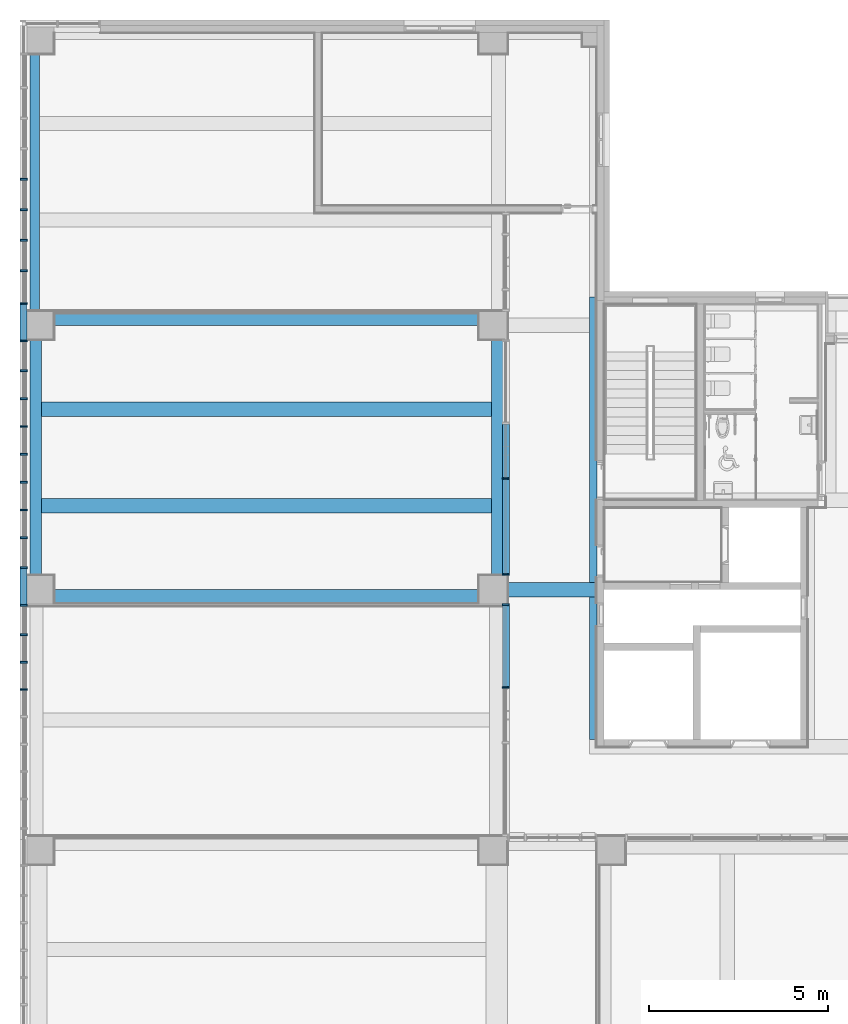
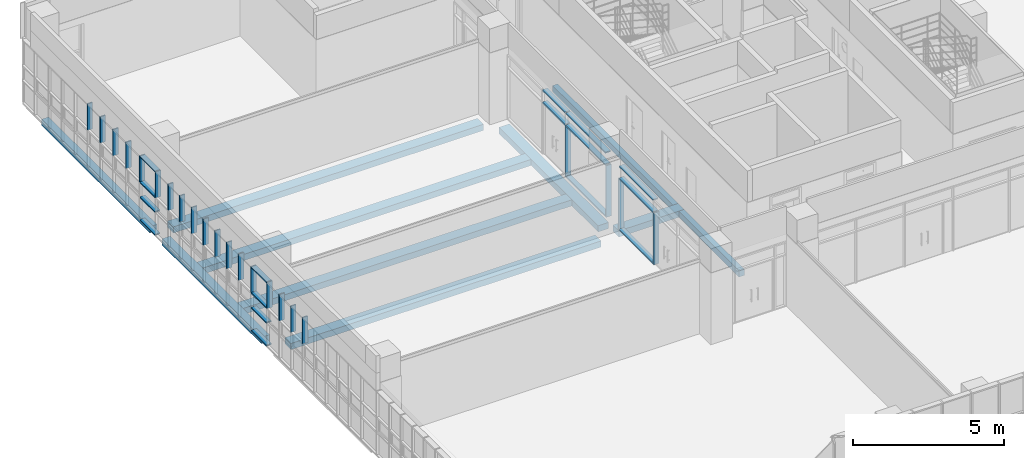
# One storey, part 6 of 76: 38 members, 10 beams, 3 elements without a shape of their own.
"""IFC2X3 building model written with IfcOpenShell, lengths in millimetres."""

from ifc_helpers import new_model, entity, si_unit, converted_unit, derived_unit, direction, frame, frame_2d, origin, origin_2d_with_axis, place, context, subcontext, project, spatial, rectangle, extrude, source, transform, mapped, material, material_list, type_object, type_shapes, element, aggregate, save


model = new_model("IFC2X3")

# Units and contexts
model_context = context("Model", 3, precision=0.01, world=origin(), true_north=direction((6.123031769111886e-17, 1.0)))
body_context = subcontext(model_context, "Body", "Model", "MODEL_VIEW")
ifc_project = project(units=[si_unit("LENGTHUNIT", "METRE", prefix="MILLI"), si_unit("AREAUNIT", "SQUARE_METRE"), si_unit("VOLUMEUNIT", "CUBIC_METRE"), converted_unit("PLANEANGLEUNIT", "DEGREE", entity("IfcRatioMeasure", 0.017453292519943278), si_unit("PLANEANGLEUNIT", "RADIAN"), dimensions=[0, 0, 0, 0, 0, 0, 0]), si_unit("MASSUNIT", "GRAM", prefix="KILO"), derived_unit("MASSDENSITYUNIT", [(si_unit("MASSUNIT", "GRAM", prefix="KILO"), 1), (si_unit("LENGTHUNIT", "METRE"), -3)]), derived_unit("MOMENTOFINERTIAUNIT", [(si_unit("LENGTHUNIT", "METRE"), 4)]), si_unit("TIMEUNIT", "SECOND"), si_unit("FREQUENCYUNIT", "HERTZ"), si_unit("THERMODYNAMICTEMPERATUREUNIT", "DEGREE_CELSIUS"), derived_unit("THERMALTRANSMITTANCEUNIT", [(si_unit("MASSUNIT", "GRAM", prefix="KILO"), 1), (si_unit("THERMODYNAMICTEMPERATUREUNIT", "KELVIN"), -1), (si_unit("TIMEUNIT", "SECOND"), -3)]), derived_unit("VOLUMETRICFLOWRATEUNIT", [(si_unit("LENGTHUNIT", "METRE"), 3), (si_unit("TIMEUNIT", "SECOND"), -1)]), derived_unit("MASSFLOWRATEUNIT", [(si_unit("MASSUNIT", "GRAM", prefix="KILO"), 1), (si_unit("TIMEUNIT", "SECOND"), -1)]), derived_unit("ROTATIONALFREQUENCYUNIT", [(si_unit("TIMEUNIT", "SECOND"), -1)]), si_unit("ELECTRICCURRENTUNIT", "AMPERE"), si_unit("ELECTRICVOLTAGEUNIT", "VOLT"), si_unit("POWERUNIT", "WATT"), si_unit("FORCEUNIT", "NEWTON", prefix="KILO"), si_unit("ILLUMINANCEUNIT", "LUX"), si_unit("LUMINOUSFLUXUNIT", "LUMEN"), si_unit("LUMINOUSINTENSITYUNIT", "CANDELA"), derived_unit("USERDEFINED", [(si_unit("MASSUNIT", "GRAM", prefix="KILO"), -1), (si_unit("LENGTHUNIT", "METRE"), -2), (si_unit("TIMEUNIT", "SECOND"), 3), (si_unit("LUMINOUSFLUXUNIT", "LUMEN"), 1)]), derived_unit("SOUNDPOWERUNIT", [(si_unit("MASSUNIT", "GRAM", prefix="KILO"), 1), (si_unit("LENGTHUNIT", "METRE"), 2), (si_unit("TIMEUNIT", "SECOND"), -3)]), derived_unit("SOUNDPRESSUREUNIT", [(si_unit("MASSUNIT", "GRAM", prefix="KILO"), 1), (si_unit("LENGTHUNIT", "METRE"), -1), (si_unit("TIMEUNIT", "SECOND"), -2)]), derived_unit("LINEARVELOCITYUNIT", [(si_unit("LENGTHUNIT", "METRE"), 1), (si_unit("TIMEUNIT", "SECOND"), -1)]), si_unit("PRESSUREUNIT", "PASCAL"), derived_unit("USERDEFINED", [(si_unit("LENGTHUNIT", "METRE"), -2), (si_unit("MASSUNIT", "GRAM", prefix="KILO"), 1), (si_unit("TIMEUNIT", "SECOND"), -2)]), derived_unit("LINEARFORCEUNIT", [(si_unit("MASSUNIT", "GRAM", prefix="KILO"), 1), (si_unit("LENGTHUNIT", "METRE"), 1), (si_unit("TIMEUNIT", "SECOND"), -2), (si_unit("LENGTHUNIT", "METRE"), -1)]), derived_unit("PLANARFORCEUNIT", [(si_unit("MASSUNIT", "GRAM", prefix="KILO"), 1), (si_unit("LENGTHUNIT", "METRE"), 1), (si_unit("TIMEUNIT", "SECOND"), -2), (si_unit("LENGTHUNIT", "METRE"), -2)])], contexts=[model_context])

# Site, building, storey
site_placement = place(None, frame((-14167.972527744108, -657.2125860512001, 0.0)))
site = spatial("IfcSite", under=ifc_project, at=site_placement, Name="Default", CompositionType="ELEMENT")
building_placement = place(site_placement, origin())
building = spatial("IfcBuilding", under=site, at=building_placement, Name="Sample Building", CompositionType="ELEMENT")
storey_placement = place(building_placement, frame((0.0, 0.0, 9300.0)))
storey = spatial("IfcBuildingStorey", under=building, at=storey_placement, Name="지상 3층", CompositionType="ELEMENT", Elevation=9300.000000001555)

# Curtain wall, member
curtain_wall_type = type_object("IfcCurtainWallType", Name="커튼월:CW112-스테인리스 스틸 커튼월", PredefinedType="NOTDEFINED")
curtain_wall_1_placement = place(storey_placement, frame((0.0, 0.0, -9300.0)))
curtain_wall_1 = element("IfcCurtainWall", 1, at=curtain_wall_1_placement, inside=storey, type_object=curtain_wall_type, Name="커튼월:CW112-스테인리스 스틸 커튼월", ObjectType="커튼월:CW112-스테인리스 스틸 커튼월")
ifc_material_1 = material(Name="<Unnamed>")
member_type_1 = type_object("IfcMemberType", Name="직사각형 멀리언:CW200-직사각형 멀리언 50x200mm", PredefinedType="MULLION", material=ifc_material_1)
shared_shape_1 = source(origin(), body_context, "Body", "SweptSolid", [
    extrude(rectangle(XDim=200.0, YDim=50.0, at=origin_2d_with_axis()), frame((0.0, 0.0, -2100.0), z_axis=(0.0, 0.0, 1.0), x_axis=(0.0, -1.0, 0.0)), (0.0, 0.0, 1.0), 2100.0),
])
type_shapes(member_type_1, [shared_shape_1])
member_1_placement = place(curtain_wall_1_placement, frame((27522.955105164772, 23067.212307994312, 9380.0), z_axis=(0.0, 0.0, -1.0), x_axis=(0.0, -1.0, 0.0)))
member_1 = element("IfcMember", 2, at=member_1_placement, type_object=member_type_1, material=ifc_material_1, Name="직사각형 멀리언:CW200-직사각형 멀리언 50x200mm", ObjectType="직사각형 멀리언:CW200-직사각형 멀리언 50x200mm", context=body_context, shape_type="MappedRepresentation", body=[
    mapped(shared_shape_1, transform((0.0, 0.0, 0.0), scale=1.0)),
])

# Curtain wall, members
curtain_wall_2_placement = place(storey_placement, frame((0.0, 0.0, -9300.0)))
curtain_wall_2 = element("IfcCurtainWall", 3, at=curtain_wall_2_placement, inside=storey, type_object=curtain_wall_type, Name="커튼월:CW112-스테인리스 스틸 커튼월", ObjectType="커튼월:CW112-스테인리스 스틸 커튼월")
member_2_placement = place(curtain_wall_2_placement, frame((27522.95510516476, 17217.17762439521, 9380.0), z_axis=(0.0, 0.0, -1.0), x_axis=(0.0, -1.0, 0.0)))
member_2 = element("IfcMember", 4, at=member_2_placement, type_object=member_type_1, material=ifc_material_1, Name="직사각형 멀리언:CW200-직사각형 멀리언 50x200mm", ObjectType="직사각형 멀리언:CW200-직사각형 멀리언 50x200mm", context=body_context, shape_type="MappedRepresentation", body=[
    mapped(shared_shape_1, transform((0.0, 0.0, 0.0), scale=1.0)),
])
member_type_2 = type_object("IfcMemberType", Name="직사각형 멀리언:CW200-직사각형 멀리언 50x200mm", PredefinedType="MULLION", material=ifc_material_1)
shared_shape_2 = source(origin(), body_context, "Body", "SweptSolid", [
    extrude(rectangle(XDim=200.0, YDim=50.0, at=origin_2d_with_axis()), frame((-25.0, 0.0, -2100.0), z_axis=(0.0, 0.0, 1.0), x_axis=(0.0, -1.0, 0.0)), (0.0, 0.0, 1.0), 2099.9999999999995),
])
type_shapes(member_type_2, [shared_shape_2])
member_3_placement = place(curtain_wall_2_placement, frame((27522.955105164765, 19557.212617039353, 11480.0), z_axis=(0.0, 0.0, 1.0), x_axis=(0.0, 1.0, 0.0)))
member_3 = element("IfcMember", 5, at=member_3_placement, type_object=member_type_2, material=ifc_material_1, Name="직사각형 멀리언:CW200-직사각형 멀리언 50x200mm", ObjectType="직사각형 멀리언:CW200-직사각형 멀리언 50x200mm", context=body_context, shape_type="MappedRepresentation", body=[
    mapped(shared_shape_2, transform((0.0, 0.0, 0.0), scale=1.0)),
])

# Member
member_type_3 = type_object("IfcMemberType", Name="직사각형 멀리언:CW200-직사각형 멀리언 50x200mm", PredefinedType="MULLION", material=ifc_material_1)
shared_shape_3 = source(origin(), body_context, "Body", "SweptSolid", [
    extrude(rectangle(XDim=200.0, YDim=50.0, at=origin_2d_with_axis()), frame((-25.0, 0.0, -2100.0), z_axis=(0.0, 0.0, 1.0), x_axis=(0.0, -1.0, 0.0)), (0.0, 0.0, 1.0), 2100.0),
])
type_shapes(member_type_3, [shared_shape_3])
member_4_placement = place(curtain_wall_1_placement, frame((27522.95510516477, 20357.212307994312, 9380.0), z_axis=(0.0, 0.0, -1.0), x_axis=(0.0, -1.0, 0.0)))
member_4 = element("IfcMember", 6, at=member_4_placement, type_object=member_type_3, material=ifc_material_1, Name="직사각형 멀리언:CW200-직사각형 멀리언 50x200mm", ObjectType="직사각형 멀리언:CW200-직사각형 멀리언 50x200mm", context=body_context, shape_type="MappedRepresentation", body=[
    mapped(shared_shape_3, transform((0.0, 0.0, 0.0), scale=1.0)),
])

member_type_4 = type_object("IfcMemberType", Name="직사각형 멀리언:CW200-직사각형 멀리언 50x200mm", PredefinedType="MULLION", material=ifc_material_1)
shared_shape_4 = source(origin(), body_context, "Body", "SweptSolid", [
    extrude(rectangle(XDim=200.0, YDim=50.0, at=origin_2d_with_axis()), frame((-25.0, 0.0, -1500.0), z_axis=(0.0, 0.0, 1.0), x_axis=(0.0, -1.0, 0.0)), (0.0, 0.0, 1.0), 1500.0000000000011),
])
type_shapes(member_type_4, [shared_shape_4])
member_5_placement = place(curtain_wall_1_placement, frame((27522.955105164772, 23092.21230799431, 12000.0), z_axis=(0.0, -1.0, 0.0), x_axis=(0.0, 0.0, 1.0)))
member_5 = element("IfcMember", 7, at=member_5_placement, type_object=member_type_4, material=ifc_material_1, Name="직사각형 멀리언:CW200-직사각형 멀리언 50x200mm", ObjectType="직사각형 멀리언:CW200-직사각형 멀리언 50x200mm", context=body_context, shape_type="MappedRepresentation", body=[
    mapped(shared_shape_4, transform((0.0, 0.0, 0.0), scale=1.0)),
])

member_type_5 = type_object("IfcMemberType", Name="직사각형 멀리언:CW200-직사각형 멀리언 50x200mm", PredefinedType="MULLION", material=ifc_material_1)
shared_shape_5 = source(origin(), body_context, "Body", "SweptSolid", [
    extrude(rectangle(XDim=200.0, YDim=50.0, at=origin_2d_with_axis()), frame((0.0, 0.0, -1500.0), z_axis=(0.0, 0.0, 1.0), x_axis=(0.0, -1.0, 0.0)), (0.0, 0.0, 1.0), 1500.0000000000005),
])
type_shapes(member_type_5, [shared_shape_5])
member_6_placement = place(curtain_wall_1_placement, frame((27522.955105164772, 23092.21230799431, 11480.0), z_axis=(0.0, -1.0, 0.0), x_axis=(0.0, 0.0, 1.0)))
member_6 = element("IfcMember", 8, at=member_6_placement, type_object=member_type_5, material=ifc_material_1, Name="직사각형 멀리언:CW200-직사각형 멀리언 50x200mm", ObjectType="직사각형 멀리언:CW200-직사각형 멀리언 50x200mm", context=body_context, shape_type="MappedRepresentation", body=[
    mapped(shared_shape_5, transform((0.0, 0.0, 0.0), scale=1.0)),
])

member_type_6 = type_object("IfcMemberType", Name="직사각형 멀리언:CW200-직사각형 멀리언 50x200mm", PredefinedType="MULLION", material=ifc_material_1)
shared_shape_6 = source(origin(), body_context, "Body", "SweptSolid", [
    extrude(rectangle(XDim=200.0, YDim=50.0, at=origin_2d_with_axis()), frame((-25.0, 0.0, -2635.0), z_axis=(0.0, 0.0, 1.0), x_axis=(0.0, -1.0, 0.0)), (0.0, 0.0, 1.0), 2635.000000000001),
])
type_shapes(member_type_6, [shared_shape_6])
member_7_placement = place(curtain_wall_1_placement, frame((27522.95510516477, 20407.212307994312, 12000.0), z_axis=(0.0, -1.0, 0.0), x_axis=(0.0, 0.0, 1.0)))
member_7 = element("IfcMember", 9, at=member_7_placement, type_object=member_type_6, material=ifc_material_1, Name="직사각형 멀리언:CW200-직사각형 멀리언 50x200mm", ObjectType="직사각형 멀리언:CW200-직사각형 멀리언 50x200mm", context=body_context, shape_type="MappedRepresentation", body=[
    mapped(shared_shape_6, transform((0.0, 0.0, 0.0), scale=1.0)),
])

member_type_7 = type_object("IfcMemberType", Name="직사각형 멀리언:CW200-직사각형 멀리언 50x200mm", PredefinedType="MULLION", material=ifc_material_1)
shared_shape_7 = source(origin(), body_context, "Body", "SweptSolid", [
    extrude(rectangle(XDim=200.0, YDim=50.0, at=origin_2d_with_axis()), frame((-25.0, 0.0, -2265.0), z_axis=(0.0, 0.0, 1.0), x_axis=(0.0, -1.0, 0.0)), (0.0, 0.0, 1.0), 2265.000000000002),
])
type_shapes(member_type_7, [shared_shape_7])
member_8_placement = place(curtain_wall_2_placement, frame((27522.955105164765, 19507.212617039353, 9380.0), z_axis=(0.0, 1.0, 0.0), x_axis=(0.0, 0.0, -1.0)))
member_8 = element("IfcMember", 10, at=member_8_placement, type_object=member_type_7, material=ifc_material_1, Name="직사각형 멀리언:CW200-직사각형 멀리언 50x200mm", ObjectType="직사각형 멀리언:CW200-직사각형 멀리언 50x200mm", context=body_context, shape_type="MappedRepresentation", body=[
    mapped(shared_shape_7, transform((0.0, 0.0, 0.0), scale=1.0)),
])

member_type_8 = type_object("IfcMemberType", Name="직사각형 멀리언:CW200-직사각형 멀리언 50x200mm", PredefinedType="MULLION", material=ifc_material_1)
shared_shape_8 = source(origin(), body_context, "Body", "SweptSolid", [
    extrude(rectangle(XDim=200.0, YDim=50.0, at=origin_2d_with_axis()), frame((-25.0, 0.0, -2635.0), z_axis=(0.0, 0.0, 1.0), x_axis=(0.0, -1.0, 0.0)), (0.0, 0.0, 1.0), 2634.9999999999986),
])
type_shapes(member_type_8, [shared_shape_8])
member_9_placement = place(curtain_wall_1_placement, frame((27522.955105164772, 23042.212307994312, 9380.0), z_axis=(0.0, 1.0, 0.0), x_axis=(0.0, 0.0, -1.0)))
member_9 = element("IfcMember", 11, at=member_9_placement, type_object=member_type_8, material=ifc_material_1, Name="직사각형 멀리언:CW200-직사각형 멀리언 50x200mm", ObjectType="직사각형 멀리언:CW200-직사각형 멀리언 50x200mm", context=body_context, shape_type="MappedRepresentation", body=[
    mapped(shared_shape_8, transform((0.0, 0.0, 0.0), scale=1.0)),
])

member_type_9 = type_object("IfcMemberType", Name="직사각형 멀리언:CW200-직사각형 멀리언 50x200mm", PredefinedType="MULLION", material=ifc_material_1)
shared_shape_9 = source(origin(), body_context, "Body", "SweptSolid", [
    extrude(rectangle(XDim=200.0, YDim=50.0, at=origin_2d_with_axis()), frame((-25.0, 0.0, -2265.0), z_axis=(0.0, 0.0, 1.0), x_axis=(0.0, -1.0, 0.0)), (0.0, 0.0, 1.0), 2265.0000000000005),
])
type_shapes(member_type_9, [shared_shape_9])
member_10_placement = place(curtain_wall_2_placement, frame((27522.95510516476, 17242.17762439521, 12000.0), z_axis=(0.0, -1.0, 0.0), x_axis=(0.0, 0.0, 1.0)))
member_10 = element("IfcMember", 12, at=member_10_placement, type_object=member_type_9, material=ifc_material_1, Name="직사각형 멀리언:CW200-직사각형 멀리언 50x200mm", ObjectType="직사각형 멀리언:CW200-직사각형 멀리언 50x200mm", context=body_context, shape_type="MappedRepresentation", body=[
    mapped(shared_shape_9, transform((0.0, 0.0, 0.0), scale=1.0)),
])

member_type_10 = type_object("IfcMemberType", Name="직사각형 멀리언:CW200-직사각형 멀리언 50x200mm", PredefinedType="MULLION", material=ifc_material_1)
shared_shape_10 = source(origin(), body_context, "Body", "SweptSolid", [
    extrude(rectangle(XDim=200.0, YDim=50.0, at=origin_2d_with_axis()), frame((0.0, 0.0, -2265.0), z_axis=(0.0, 0.0, 1.0), x_axis=(0.0, -1.0, 0.0)), (0.0, 0.0, 1.0), 2265.000000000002),
])
type_shapes(member_type_10, [shared_shape_10])
member_11_placement = place(curtain_wall_2_placement, frame((27522.95510516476, 17242.17762439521, 11480.0), z_axis=(0.0, -1.0, 0.0), x_axis=(0.0, 0.0, 1.0)))
member_11 = element("IfcMember", 13, at=member_11_placement, type_object=member_type_10, material=ifc_material_1, Name="직사각형 멀리언:CW200-직사각형 멀리언 50x200mm", ObjectType="직사각형 멀리언:CW200-직사각형 멀리언 50x200mm", context=body_context, shape_type="MappedRepresentation", body=[
    mapped(shared_shape_10, transform((0.0, 0.0, 0.0), scale=1.0)),
])

aggregate(curtain_wall_2, [member_8, member_10, member_2, member_3, member_11])

member_type_11 = type_object("IfcMemberType", Name="직사각형 멀리언:CW200-직사각형 멀리언 50x200mm", PredefinedType="MULLION", material=ifc_material_1)
shared_shape_11 = source(origin(), body_context, "Body", "SweptSolid", [
    extrude(rectangle(XDim=200.0, YDim=50.0, at=origin_2d_with_axis()), frame((0.0, 0.0, -2635.0), z_axis=(0.0, 0.0, 1.0), x_axis=(0.0, -1.0, 0.0)), (0.0, 0.0, 1.0), 2635.0),
])
type_shapes(member_type_11, [shared_shape_11])
member_12_placement = place(curtain_wall_1_placement, frame((27522.95510516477, 20407.212307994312, 11480.0), z_axis=(0.0, -1.0, 0.0), x_axis=(0.0, 0.0, 1.0)))
member_12 = element("IfcMember", 14, at=member_12_placement, type_object=member_type_11, material=ifc_material_1, Name="직사각형 멀리언:CW200-직사각형 멀리언 50x200mm", ObjectType="직사각형 멀리언:CW200-직사각형 멀리언 50x200mm", context=body_context, shape_type="MappedRepresentation", body=[
    mapped(shared_shape_11, transform((0.0, 0.0, 0.0), scale=1.0)),
])

aggregate(curtain_wall_1, [member_7, member_4, member_5, member_9, member_1, member_6, member_12])

# Curtain wall, members
curtain_wall_3_placement = place(storey_placement, frame((0.0, 0.0, -9300.0)))
curtain_wall_3 = element("IfcCurtainWall", 15, at=curtain_wall_3_placement, inside=storey, type_object=curtain_wall_type, Name="커튼월:CW112-스테인리스 스틸 커튼월", ObjectType="커튼월:CW112-스테인리스 스틸 커튼월")
member_type_12 = type_object("IfcMemberType", Name="직사각형 멀리언:CW200-직사각형 멀리언 50x200mm", PredefinedType="MULLION", material=ifc_material_1)
shared_shape_12 = source(origin(), body_context, "Body", "SweptSolid", [
    extrude(rectangle(XDim=200.0, YDim=50.0, at=origin_2d_with_axis()), frame((0.0, 0.0, -1070.0), z_axis=(0.0, 0.0, 1.0), x_axis=(0.0, -1.0, 0.0)), (0.0, 0.0, 1.0), 1070.000000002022),
])
type_shapes(member_type_12, [shared_shape_12])
member_13_placement = place(curtain_wall_3_placement, frame((14018.587904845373, 31447.817707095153, 10930.0), z_axis=(0.0, 0.0, -1.0), x_axis=(0.0, -1.0, 0.0)))
member_13 = element("IfcMember", 16, at=member_13_placement, type_object=member_type_12, material=ifc_material_1, Name="직사각형 멀리언:CW200-직사각형 멀리언 50x200mm", ObjectType="직사각형 멀리언:CW200-직사각형 멀리언 50x200mm", context=body_context, shape_type="MappedRepresentation", body=[
    mapped(shared_shape_12, transform((0.0, 0.0, 0.0), scale=1.0)),
])
member_14_placement = place(curtain_wall_3_placement, frame((14018.587904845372, 30593.817707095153, 10930.0), z_axis=(0.0, 0.0, -1.0), x_axis=(0.0, -1.0, 0.0)))
member_14 = element("IfcMember", 17, at=member_14_placement, type_object=member_type_12, material=ifc_material_1, Name="직사각형 멀리언:CW200-직사각형 멀리언 50x200mm", ObjectType="직사각형 멀리언:CW200-직사각형 멀리언 50x200mm", context=body_context, shape_type="MappedRepresentation", body=[
    mapped(shared_shape_12, transform((0.0, 0.0, 0.0), scale=1.0)),
])
member_15_placement = place(curtain_wall_3_placement, frame((14018.587904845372, 29739.81770709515, 10930.0), z_axis=(0.0, 0.0, -1.0), x_axis=(0.0, -1.0, 0.0)))
member_15 = element("IfcMember", 18, at=member_15_placement, type_object=member_type_12, material=ifc_material_1, Name="직사각형 멀리언:CW200-직사각형 멀리언 50x200mm", ObjectType="직사각형 멀리언:CW200-직사각형 멀리언 50x200mm", context=body_context, shape_type="MappedRepresentation", body=[
    mapped(shared_shape_12, transform((0.0, 0.0, 0.0), scale=1.0)),
])
member_16_placement = place(curtain_wall_3_placement, frame((14018.58790484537, 28885.81770709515, 10930.0), z_axis=(0.0, 0.0, -1.0), x_axis=(0.0, -1.0, 0.0)))
member_16 = element("IfcMember", 19, at=member_16_placement, type_object=member_type_12, material=ifc_material_1, Name="직사각형 멀리언:CW200-직사각형 멀리언 50x200mm", ObjectType="직사각형 멀리언:CW200-직사각형 멀리언 50x200mm", context=body_context, shape_type="MappedRepresentation", body=[
    mapped(shared_shape_12, transform((0.0, 0.0, 0.0), scale=1.0)),
])
member_17_placement = place(curtain_wall_3_placement, frame((14018.58790484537, 27971.81770709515, 10930.0), z_axis=(0.0, 0.0, -1.0), x_axis=(0.0, -1.0, 0.0)))
member_17 = element("IfcMember", 20, at=member_17_placement, type_object=member_type_12, material=ifc_material_1, Name="직사각형 멀리언:CW200-직사각형 멀리언 50x200mm", ObjectType="직사각형 멀리언:CW200-직사각형 멀리언 50x200mm", context=body_context, shape_type="MappedRepresentation", body=[
    mapped(shared_shape_12, transform((0.0, 0.0, 0.0), scale=1.0)),
])
member_18_placement = place(curtain_wall_3_placement, frame((14018.587904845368, 26921.81770709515, 10930.0), z_axis=(0.0, 0.0, -1.0), x_axis=(0.0, -1.0, 0.0)))
member_18 = element("IfcMember", 21, at=member_18_placement, type_object=member_type_12, material=ifc_material_1, Name="직사각형 멀리언:CW200-직사각형 멀리언 50x200mm", ObjectType="직사각형 멀리언:CW200-직사각형 멀리언 50x200mm", context=body_context, shape_type="MappedRepresentation", body=[
    mapped(shared_shape_12, transform((0.0, 0.0, 0.0), scale=1.0)),
])
member_19_placement = place(curtain_wall_3_placement, frame((14018.587904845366, 26082.81770709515, 10930.0), z_axis=(0.0, 0.0, -1.0), x_axis=(0.0, -1.0, 0.0)))
member_19 = element("IfcMember", 22, at=member_19_placement, type_object=member_type_12, material=ifc_material_1, Name="직사각형 멀리언:CW200-직사각형 멀리언 50x200mm", ObjectType="직사각형 멀리언:CW200-직사각형 멀리언 50x200mm", context=body_context, shape_type="MappedRepresentation", body=[
    mapped(shared_shape_12, transform((0.0, 0.0, 0.0), scale=1.0)),
])
member_20_placement = place(curtain_wall_3_placement, frame((14018.587904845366, 25303.81770709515, 10930.0), z_axis=(0.0, 0.0, -1.0), x_axis=(0.0, -1.0, 0.0)))
member_20 = element("IfcMember", 23, at=member_20_placement, type_object=member_type_12, material=ifc_material_1, Name="직사각형 멀리언:CW200-직사각형 멀리언 50x200mm", ObjectType="직사각형 멀리언:CW200-직사각형 멀리언 50x200mm", context=body_context, shape_type="MappedRepresentation", body=[
    mapped(shared_shape_12, transform((0.0, 0.0, 0.0), scale=1.0)),
])
member_21_placement = place(curtain_wall_3_placement, frame((14018.587904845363, 24524.81770709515, 10930.0), z_axis=(0.0, 0.0, -1.0), x_axis=(0.0, -1.0, 0.0)))
member_21 = element("IfcMember", 24, at=member_21_placement, type_object=member_type_12, material=ifc_material_1, Name="직사각형 멀리언:CW200-직사각형 멀리언 50x200mm", ObjectType="직사각형 멀리언:CW200-직사각형 멀리언 50x200mm", context=body_context, shape_type="MappedRepresentation", body=[
    mapped(shared_shape_12, transform((0.0, 0.0, 0.0), scale=1.0)),
])
member_22_placement = place(curtain_wall_3_placement, frame((14018.587904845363, 23745.81770709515, 10930.0), z_axis=(0.0, 0.0, -1.0), x_axis=(0.0, -1.0, 0.0)))
member_22 = element("IfcMember", 25, at=member_22_placement, type_object=member_type_12, material=ifc_material_1, Name="직사각형 멀리언:CW200-직사각형 멀리언 50x200mm", ObjectType="직사각형 멀리언:CW200-직사각형 멀리언 50x200mm", context=body_context, shape_type="MappedRepresentation", body=[
    mapped(shared_shape_12, transform((0.0, 0.0, 0.0), scale=1.0)),
])
member_23_placement = place(curtain_wall_3_placement, frame((14018.58790484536, 22966.81770709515, 10930.0), z_axis=(0.0, 0.0, -1.0), x_axis=(0.0, -1.0, 0.0)))
member_23 = element("IfcMember", 26, at=member_23_placement, type_object=member_type_12, material=ifc_material_1, Name="직사각형 멀리언:CW200-직사각형 멀리언 50x200mm", ObjectType="직사각형 멀리언:CW200-직사각형 멀리언 50x200mm", context=body_context, shape_type="MappedRepresentation", body=[
    mapped(shared_shape_12, transform((0.0, 0.0, 0.0), scale=1.0)),
])
member_24_placement = place(curtain_wall_3_placement, frame((14018.587904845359, 22187.81770709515, 10930.0), z_axis=(0.0, 0.0, -1.0), x_axis=(0.0, -1.0, 0.0)))
member_24 = element("IfcMember", 27, at=member_24_placement, type_object=member_type_12, material=ifc_material_1, Name="직사각형 멀리언:CW200-직사각형 멀리언 50x200mm", ObjectType="직사각형 멀리언:CW200-직사각형 멀리언 50x200mm", context=body_context, shape_type="MappedRepresentation", body=[
    mapped(shared_shape_12, transform((0.0, 0.0, 0.0), scale=1.0)),
])
member_25_placement = place(curtain_wall_3_placement, frame((14018.587904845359, 21408.817707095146, 10930.0), z_axis=(0.0, 0.0, -1.0), x_axis=(0.0, -1.0, 0.0)))
member_25 = element("IfcMember", 28, at=member_25_placement, type_object=member_type_12, material=ifc_material_1, Name="직사각형 멀리언:CW200-직사각형 멀리언 50x200mm", ObjectType="직사각형 멀리언:CW200-직사각형 멀리언 50x200mm", context=body_context, shape_type="MappedRepresentation", body=[
    mapped(shared_shape_12, transform((0.0, 0.0, 0.0), scale=1.0)),
])
member_26_placement = place(curtain_wall_3_placement, frame((14018.587904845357, 20569.817707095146, 10930.0), z_axis=(0.0, 0.0, -1.0), x_axis=(0.0, -1.0, 0.0)))
member_26 = element("IfcMember", 29, at=member_26_placement, type_object=member_type_12, material=ifc_material_1, Name="직사각형 멀리언:CW200-직사각형 멀리언 50x200mm", ObjectType="직사각형 멀리언:CW200-직사각형 멀리언 50x200mm", context=body_context, shape_type="MappedRepresentation", body=[
    mapped(shared_shape_12, transform((0.0, 0.0, 0.0), scale=1.0)),
])
member_27_placement = place(curtain_wall_3_placement, frame((14018.587904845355, 18693.817707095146, 10930.0), z_axis=(0.0, 0.0, -1.0), x_axis=(0.0, -1.0, 0.0)))
member_27 = element("IfcMember", 30, at=member_27_placement, type_object=member_type_12, material=ifc_material_1, Name="직사각형 멀리언:CW200-직사각형 멀리언 50x200mm", ObjectType="직사각형 멀리언:CW200-직사각형 멀리언 50x200mm", context=body_context, shape_type="MappedRepresentation", body=[
    mapped(shared_shape_12, transform((0.0, 0.0, 0.0), scale=1.0)),
])
member_28_placement = place(curtain_wall_3_placement, frame((14018.587904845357, 19519.81770709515, 10930.0), z_axis=(0.0, 0.0, -1.0), x_axis=(0.0, -1.0, 0.0)))
member_28 = element("IfcMember", 31, at=member_28_placement, type_object=member_type_12, material=ifc_material_1, Name="직사각형 멀리언:CW200-직사각형 멀리언 50x200mm", ObjectType="직사각형 멀리언:CW200-직사각형 멀리언 50x200mm", context=body_context, shape_type="MappedRepresentation", body=[
    mapped(shared_shape_12, transform((0.0, 0.0, 0.0), scale=1.0)),
])
member_29_placement = place(curtain_wall_3_placement, frame((14018.587904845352, 17927.81770709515, 10930.0), z_axis=(0.0, 0.0, -1.0), x_axis=(0.0, -1.0, 0.0)))
member_29 = element("IfcMember", 32, at=member_29_placement, type_object=member_type_12, material=ifc_material_1, Name="직사각형 멀리언:CW200-직사각형 멀리언 50x200mm", ObjectType="직사각형 멀리언:CW200-직사각형 멀리언 50x200mm", context=body_context, shape_type="MappedRepresentation", body=[
    mapped(shared_shape_12, transform((0.0, 0.0, 0.0), scale=1.0)),
])
member_30_placement = place(curtain_wall_3_placement, frame((14018.587904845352, 17161.81770709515, 10930.0), z_axis=(0.0, 0.0, -1.0), x_axis=(0.0, -1.0, 0.0)))
member_30 = element("IfcMember", 33, at=member_30_placement, type_object=member_type_12, material=ifc_material_1, Name="직사각형 멀리언:CW200-직사각형 멀리언 50x200mm", ObjectType="직사각형 멀리언:CW200-직사각형 멀리언 50x200mm", context=body_context, shape_type="MappedRepresentation", body=[
    mapped(shared_shape_12, transform((0.0, 0.0, 0.0), scale=1.0)),
])
member_type_13 = type_object("IfcMemberType", Name="직사각형 멀리언:CW200-직사각형 멀리언 50x200mm", PredefinedType="MULLION", material=ifc_material_1)
shared_shape_13 = source(origin(), body_context, "Body", "SweptSolid", [
    extrude(rectangle(XDim=200.0, YDim=50.0, at=origin_2d_with_axis()), frame((-25.0, 0.0, -1000.0), z_axis=(0.0, 0.0, 1.0), x_axis=(0.0, -1.0, 0.0)), (0.0, 0.0, 1.0), 1000.0000000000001),
])
type_shapes(member_type_13, [shared_shape_13])
member_31_placement = place(curtain_wall_3_placement, frame((14018.58790484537, 27946.81770709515, 9380.0), z_axis=(0.0, 1.0, 0.0), x_axis=(0.0, 0.0, -1.0)))
member_31 = element("IfcMember", 34, at=member_31_placement, type_object=member_type_13, material=ifc_material_1, Name="직사각형 멀리언:CW200-직사각형 멀리언 50x200mm", ObjectType="직사각형 멀리언:CW200-직사각형 멀리언 50x200mm", context=body_context, shape_type="MappedRepresentation", body=[
    mapped(shared_shape_13, transform((0.0, 0.0, 0.0), scale=1.0)),
])
member_32_placement = place(curtain_wall_3_placement, frame((14018.587904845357, 20544.81770709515, 9380.0), z_axis=(0.0, 1.0, 0.0), x_axis=(0.0, 0.0, -1.0)))
member_32 = element("IfcMember", 35, at=member_32_placement, type_object=member_type_13, material=ifc_material_1, Name="직사각형 멀리언:CW200-직사각형 멀리언 50x200mm", ObjectType="직사각형 멀리언:CW200-직사각형 멀리언 50x200mm", context=body_context, shape_type="MappedRepresentation", body=[
    mapped(shared_shape_13, transform((0.0, 0.0, 0.0), scale=1.0)),
])
member_type_14 = type_object("IfcMemberType", Name="직사각형 멀리언:CW200-직사각형 멀리언 50x200mm", PredefinedType="MULLION", material=ifc_material_1)
shared_shape_14 = source(origin(), body_context, "Body", "SweptSolid", [
    extrude(rectangle(XDim=200.0, YDim=50.0, at=origin_2d_with_axis()), frame((0.0, 0.0, -1000.0), z_axis=(0.0, 0.0, 1.0), x_axis=(0.0, -1.0, 0.0)), (0.0, 0.0, 1.0), 999.999999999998),
])
type_shapes(member_type_14, [shared_shape_14])
member_33_placement = place(curtain_wall_3_placement, frame((14018.587904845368, 26946.81770709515, 10330.0), z_axis=(0.0, -1.0, 0.0), x_axis=(0.0, 0.0, 1.0)))
member_33 = element("IfcMember", 36, at=member_33_placement, type_object=member_type_14, material=ifc_material_1, Name="직사각형 멀리언:CW200-직사각형 멀리언 50x200mm", ObjectType="직사각형 멀리언:CW200-직사각형 멀리언 50x200mm", context=body_context, shape_type="MappedRepresentation", body=[
    mapped(shared_shape_14, transform((0.0, 0.0, 0.0), scale=1.0)),
])
member_34_placement = place(curtain_wall_3_placement, frame((14018.587904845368, 26946.81770709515, 10930.0), z_axis=(0.0, -1.0, 0.0), x_axis=(0.0, 0.0, 1.0)))
member_34 = element("IfcMember", 37, at=member_34_placement, type_object=member_type_14, material=ifc_material_1, Name="직사각형 멀리언:CW200-직사각형 멀리언 50x200mm", ObjectType="직사각형 멀리언:CW200-직사각형 멀리언 50x200mm", context=body_context, shape_type="MappedRepresentation", body=[
    mapped(shared_shape_14, transform((0.0, 0.0, 0.0), scale=1.0)),
])
member_35_placement = place(curtain_wall_3_placement, frame((14018.587904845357, 19544.81770709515, 10330.0), z_axis=(0.0, -1.0, 0.0), x_axis=(0.0, 0.0, 1.0)))
member_35 = element("IfcMember", 38, at=member_35_placement, type_object=member_type_14, material=ifc_material_1, Name="직사각형 멀리언:CW200-직사각형 멀리언 50x200mm", ObjectType="직사각형 멀리언:CW200-직사각형 멀리언 50x200mm", context=body_context, shape_type="MappedRepresentation", body=[
    mapped(shared_shape_14, transform((0.0, 0.0, 0.0), scale=1.0)),
])
member_36_placement = place(curtain_wall_3_placement, frame((14018.587904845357, 19544.817707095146, 10930.0), z_axis=(0.0, -1.0, 0.0), x_axis=(0.0, 0.0, 1.0)))
member_36 = element("IfcMember", 39, at=member_36_placement, type_object=member_type_14, material=ifc_material_1, Name="직사각형 멀리언:CW200-직사각형 멀리언 50x200mm", ObjectType="직사각형 멀리언:CW200-직사각형 멀리언 50x200mm", context=body_context, shape_type="MappedRepresentation", body=[
    mapped(shared_shape_14, transform((0.0, 0.0, 0.0), scale=1.0)),
])
member_type_15 = type_object("IfcMemberType", Name="직사각형 멀리언:CW200-직사각형 멀리언 50x200mm", PredefinedType="MULLION", material=ifc_material_1)
shared_shape_15 = source(origin(), body_context, "Body", "SweptSolid", [
    extrude(rectangle(XDim=200.0, YDim=50.0, at=origin_2d_with_axis()), frame((-25.0, 0.0, -1000.0), z_axis=(0.0, 0.0, 1.0), x_axis=(0.0, -1.0, 0.0)), (0.0, 0.0, 1.0), 999.999999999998),
])
type_shapes(member_type_15, [shared_shape_15])
member_37_placement = place(curtain_wall_3_placement, frame((14018.587904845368, 26946.81770709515, 12000.0), z_axis=(0.0, -1.0, 0.0), x_axis=(0.0, 0.0, 1.0)))
member_37 = element("IfcMember", 40, at=member_37_placement, type_object=member_type_15, material=ifc_material_1, Name="직사각형 멀리언:CW200-직사각형 멀리언 50x200mm", ObjectType="직사각형 멀리언:CW200-직사각형 멀리언 50x200mm", context=body_context, shape_type="MappedRepresentation", body=[
    mapped(shared_shape_15, transform((0.0, 0.0, 0.0), scale=1.0)),
])
member_38_placement = place(curtain_wall_3_placement, frame((14018.587904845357, 19544.817707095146, 12000.0), z_axis=(0.0, -1.0, 0.0), x_axis=(0.0, 0.0, 1.0)))
member_38 = element("IfcMember", 41, at=member_38_placement, type_object=member_type_15, material=ifc_material_1, Name="직사각형 멀리언:CW200-직사각형 멀리언 50x200mm", ObjectType="직사각형 멀리언:CW200-직사각형 멀리언 50x200mm", context=body_context, shape_type="MappedRepresentation", body=[
    mapped(shared_shape_15, transform((0.0, 0.0, 0.0), scale=1.0)),
])
aggregate(curtain_wall_3, [member_13, member_14, member_15, member_16, member_31, member_33, member_34, member_17, member_37, member_18, member_19, member_20, member_21, member_22, member_23, member_24, member_25, member_32, member_35, member_36, member_26, member_27, member_38, member_28, member_29, member_30])

# Beams
ifc_material_2 = material(Name="KBIMS-콘크리트")
beam_type_1 = type_object("IfcBeamType", Name="BM111-철근콘크리트구조 보:BM110-철근 콘크리트구조 보_400 x 400_2-10G7", PredefinedType="NOTDEFINED")
beam_1_placement = place(storey_placement, frame((27117.955141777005, 19757.2124789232, 0.0), z_axis=(0.0, 0.0, 1.0), x_axis=(-1.0, 0.0, 0.0)))
element("IfcBeam", 42, at=beam_1_placement, inside=storey, type_object=beam_type_1, material=ifc_material_2, Name="BM111-철근콘크리트구조 보:BM110-철근 콘크리트구조 보_400 x 400_2-10G7", ObjectType="BM111-철근콘크리트구조 보:BM110-철근 콘크리트구조 보_400 x 400_2-10G7", context=body_context, shape_type="SweptSolid", body=[
    extrude(rectangle(XDim=250.00000000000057, YDim=400.0000000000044, at=frame_2d((5.400124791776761e-13, 0.0), x_axis=(1.0, 0.0))), frame((350.0, 0.0, -275.0), z_axis=(1.0, 0.0, 0.0), x_axis=(0.0, 0.0, -1.0)), (0.0, 0.0, 1.0), 11900.000036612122),
])
beam_2_placement = place(storey_placement, frame((27318.061800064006, 27557.212617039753, 0.0), z_axis=(0.0, 0.0, 1.0), x_axis=(-1.0, 0.0, 0.0)))
element("IfcBeam", 43, at=beam_2_placement, inside=storey, type_object=beam_type_1, material=ifc_material_2, Name="BM111-철근콘크리트구조 보:BM110-철근 콘크리트구조 보_400 x 400_2-10G7", ObjectType="BM111-철근콘크리트구조 보:BM110-철근 콘크리트구조 보_400 x 400_2-10G7", context=body_context, shape_type="SweptSolid", body=[
    extrude(rectangle(XDim=250.00000000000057, YDim=400.0000000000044, at=frame_2d((5.400124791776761e-13, 0.0), x_axis=(1.0, 0.0))), frame((550.1066582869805, 0.0, -275.0), z_axis=(1.0, 0.0, 0.0), x_axis=(0.0, 0.0, -1.0)), (0.0, 0.0, 1.0), 11900.000036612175),
])
beam_type_2 = type_object("IfcBeamType", Name="BM111-철근콘크리트구조 보:BM110-철근 콘크리트구조 보_400 x 400_2-10B3", PredefinedType="NOTDEFINED")
beam_3_placement = place(storey_placement, frame((27318.061800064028, 22307.21237354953, 0.0), z_axis=(0.0, 0.0, 1.0), x_axis=(-1.0, 0.0, 0.0)))
element("IfcBeam", 44, at=beam_3_placement, inside=storey, type_object=beam_type_2, material=ifc_material_2, Name="BM111-철근콘크리트구조 보:BM110-철근 콘크리트구조 보_400 x 400_2-10B3", ObjectType="BM111-철근콘크리트구조 보:BM110-철근 콘크리트구조 보_400 x 400_2-10B3", context=body_context, shape_type="SweptSolid", body=[
    extrude(rectangle(XDim=250.00000000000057, YDim=400.0000000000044, at=frame_2d((5.400124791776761e-13, 0.0), x_axis=(1.0, 0.0))), frame((200.0, 0.0, -275.0), z_axis=(1.0, 0.0, 0.0), x_axis=(0.0, 0.0, -1.0)), (0.0, 0.0, 1.0), 12600.106578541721),
])
beam_4_placement = place(storey_placement, frame((27318.06180006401, 25007.212373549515, 0.0), z_axis=(0.0, 0.0, 1.0), x_axis=(-1.0, 0.0, 0.0)))
element("IfcBeam", 45, at=beam_4_placement, inside=storey, type_object=beam_type_2, material=ifc_material_2, Name="BM111-철근콘크리트구조 보:BM110-철근 콘크리트구조 보_400 x 400_2-10B3", ObjectType="BM111-철근콘크리트구조 보:BM110-철근 콘크리트구조 보_400 x 400_2-10B3", context=body_context, shape_type="SweptSolid", body=[
    extrude(rectangle(XDim=250.00000000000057, YDim=400.0000000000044, at=frame_2d((5.400124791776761e-13, 0.0), x_axis=(1.0, 0.0))), frame((200.0, 0.0, -275.0), z_axis=(1.0, 0.0, 0.0), x_axis=(0.0, 0.0, -1.0)), (0.0, 0.0, 1.0), 12600.106578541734),
])
beam_type_3 = type_object("IfcBeamType", Name="BM111-철근콘크리트구조 보:BM110-철근 콘크리트구조 보_400 x 400_2-10G3", PredefinedType="NOTDEFINED")
beam_5_placement = place(storey_placement, frame((27318.061800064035, 19957.212617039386, 0.0)))
element("IfcBeam", 46, at=beam_5_placement, inside=storey, type_object=beam_type_3, material=ifc_material_2, Name="BM111-철근콘크리트구조 보:BM110-철근 콘크리트구조 보_400 x 400_2-10G3", ObjectType="BM111-철근콘크리트구조 보:BM110-철근 콘크리트구조 보_400 x 400_2-10G3", context=body_context, shape_type="SweptSolid", body=[
    extrude(rectangle(XDim=250.00000000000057, YDim=400.0000000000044, at=frame_2d((5.400124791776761e-13, 0.0), x_axis=(1.0, 0.0))), frame((249.8933417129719, 0.0, -275.0), z_axis=(1.0, 0.0, 0.0), x_axis=(0.0, 0.0, -1.0)), (0.0, 0.0, 1.0), 2500.0086197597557),
])
beam_type_4 = type_object("IfcBeamType", Name="BM111-철근콘크리트구조 보:BM110-철근 콘크리트구조 보_400 x 400_2-10G10", PredefinedType="NOTDEFINED")
beam_6_placement = place(storey_placement, frame((14317.955221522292, 27557.21261704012, 0.0), z_axis=(0.0, 0.0, 1.0), x_axis=(0.0, -1.0, 0.0)))
element("IfcBeam", 47, at=beam_6_placement, inside=storey, type_object=beam_type_4, material=ifc_material_2, Name="BM111-철근콘크리트구조 보:BM110-철근 콘크리트구조 보_400 x 400_2-10G10", ObjectType="BM111-철근콘크리트구조 보:BM110-철근 콘크리트구조 보_400 x 400_2-10G10", context=body_context, shape_type="SweptSolid", body=[
    extrude(rectangle(XDim=250.00000000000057, YDim=324.98265064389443, at=frame_2d((5.471179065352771e-13, 7.58859641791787e-12), x_axis=(1.0, 0.0))), frame((600.0, 37.508674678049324, -275.0), z_axis=(1.0, 0.0, 0.0), x_axis=(0.0, 0.0, -1.0)), (0.0, 0.0, 1.0), 6600.0000000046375),
])
beam_7_placement = place(storey_placement, frame((27318.061800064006, 27357.212478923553, 0.0), z_axis=(0.0, 0.0, 1.0), x_axis=(0.0, -1.0, 0.0)))
element("IfcBeam", 48, at=beam_7_placement, inside=storey, type_object=beam_type_4, material=ifc_material_2, Name="BM111-철근콘크리트구조 보:BM110-철근 콘크리트구조 보_400 x 400_2-10G10", ObjectType="BM111-철근콘크리트구조 보:BM110-철근 콘크리트구조 보_400 x 400_2-10G10", context=body_context, shape_type="SweptSolid", body=[
    extrude(rectangle(XDim=250.00000000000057, YDim=399.9999999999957, at=frame_2d((5.471179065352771e-13, 6.494360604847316e-12), x_axis=(1.0, 0.0))), frame((399.99986187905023, 0.0, -275.0), z_axis=(1.0, 0.0, 0.0), x_axis=(0.0, 0.0, -1.0)), (0.0, 0.0, 1.0), 6600.000000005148),
])
beam_8_placement = place(storey_placement, frame((14267.955086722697, 27157.21261704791, 0.0), z_axis=(0.0, 0.0, 1.0), x_axis=(0.0, 1.0, 0.0)))
element("IfcBeam", 49, at=beam_8_placement, inside=storey, type_object=beam_type_4, material=ifc_material_2, Name="BM111-철근콘크리트구조 보:BM110-철근 콘크리트구조 보_400 x 400_2-10G10", ObjectType="BM111-철근콘크리트구조 보:BM110-철근 콘크리트구조 보_400 x 400_2-10G10", context=body_context, shape_type="SweptSolid", body=[
    extrude(rectangle(XDim=250.00000000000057, YDim=274.9825158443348, at=frame_2d((5.400124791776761e-13, -9.734435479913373e-12), x_axis=(1.0, 0.0))), frame((600.0, -62.50874207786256, -275.0), z_axis=(1.0, 0.0, 0.0), x_axis=(0.0, 0.0, -1.0)), (0.0, 0.0, 1.0), 7199.999972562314),
])
ifc_material_list = material_list([ifc_material_2, ifc_material_2, ifc_material_2])
beam_type_5 = type_object("IfcBeamType", Name="BM111-철근콘크리트구조 보:BM110-철근 콘크리트구조 보_400 x 400_2-10WG1", PredefinedType="BEAM", material=ifc_material_list)
beam_9_placement = place(storey_placement, frame((30067.94644879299, 15557.212604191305, 0.0), z_axis=(0.0, 0.0, 1.0), x_axis=(0.0, 1.0, 0.0)))
element("IfcBeam", 50, at=beam_9_placement, inside=storey, type_object=beam_type_5, material=ifc_material_2, Name="BM111-철근콘크리트구조 보:BM110-철근 콘크리트구조 보_400 x 400_2-10WG1", ObjectType="BM111-철근콘크리트구조 보:BM110-철근 콘크리트구조 보_400 x 400_2-10WG1", context=body_context, shape_type="SweptSolid", body=[
    extrude(rectangle(XDim=250.00000000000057, YDim=200.01731274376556, at=frame_2d((5.400124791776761e-13, -4.334310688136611e-12), x_axis=(1.0, 0.0))), frame((200.0, 99.99134362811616, -275.0), z_axis=(1.0, 0.0, 0.0), x_axis=(0.0, 0.0, -1.0)), (0.0, 0.0, 1.0), 4000.0000128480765),
])
beam_10_placement = place(storey_placement, frame((30067.946448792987, 28157.212604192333, 0.0), z_axis=(0.0, 0.0, 1.0), x_axis=(0.0, -1.0, 0.0)))
element("IfcBeam", 51, at=beam_10_placement, inside=storey, type_object=beam_type_5, material=ifc_material_2, Name="BM111-철근콘크리트구조 보:BM110-철근 콘크리트구조 보_400 x 400_2-10WG1", ObjectType="BM111-철근콘크리트구조 보:BM110-철근 콘크리트구조 보_400 x 400_2-10WG1", context=body_context, shape_type="SweptSolid", body=[
    extrude(rectangle(XDim=250.00000000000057, YDim=200.01731274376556, at=frame_2d((5.400124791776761e-13, 2.1671553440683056e-12), x_axis=(1.0, 0.0))), frame((0.0, -99.99134362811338, -275.0), z_axis=(1.0, 0.0, 0.0), x_axis=(0.0, 0.0, -1.0)), (0.0, 0.0, 1.0), 7999.999987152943),
])

save(model, "model.ifc")
